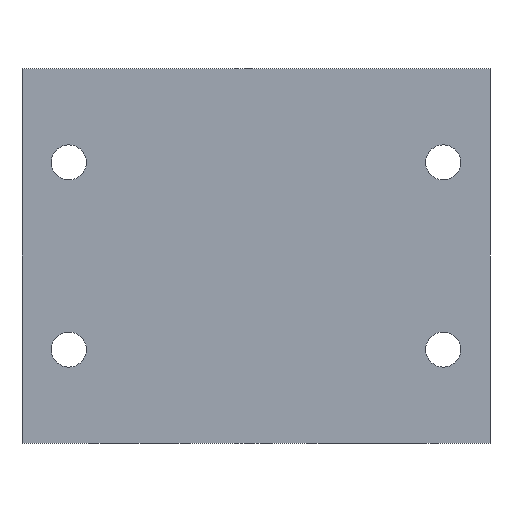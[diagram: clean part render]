
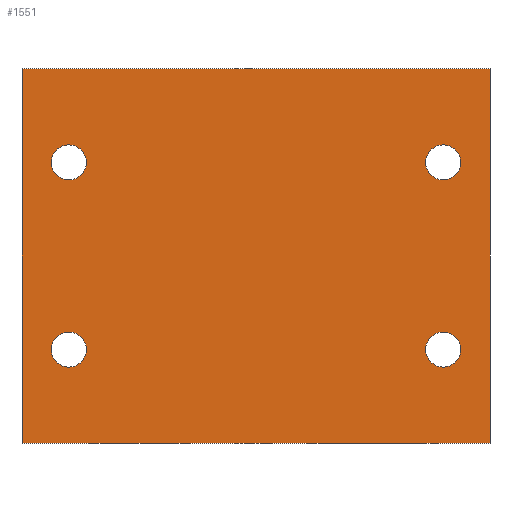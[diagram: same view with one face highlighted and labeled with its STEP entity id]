
A CAD part, front view. The second image highlights one B-rep face of the part: STEP entity #1551.
In plain terms, the highlighted planar face has unit normal (0, -1, 0).
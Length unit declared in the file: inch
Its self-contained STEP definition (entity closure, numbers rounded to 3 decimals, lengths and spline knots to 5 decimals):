
#23 = DIRECTION ( 'NONE',  ( 0., 0., 1. ) ) ;
#60 = CARTESIAN_POINT ( 'NONE',  ( -1.34238, 0., 2.18116 ) ) ;
#90 = CARTESIAN_POINT ( 'NONE',  ( 3.15762, 0., -0.81884 ) ) ;
#136 = CARTESIAN_POINT ( 'NONE',  ( 0., 0., 0. ) ) ;
#147 = CARTESIAN_POINT ( 'NONE',  ( 2.65762, 0., 2.18116 ) ) ;
#158 = FACE_BOUND ( 'NONE', #1676, .T. ) ;
#194 = VERTEX_POINT ( 'NONE', #2340 ) ;
#199 = CARTESIAN_POINT ( 'NONE',  ( -1.34238, 0., 0.36866 ) ) ;
#213 = ORIENTED_EDGE ( 'NONE', *, *, #2386, .T. ) ;
#228 = AXIS2_PLACEMENT_3D ( 'NONE', #2409, #347, #542 ) ;
#233 = ORIENTED_EDGE ( 'NONE', *, *, #717, .T. ) ;
#241 = VERTEX_POINT ( 'NONE', #199 ) ;
#247 = CARTESIAN_POINT ( 'NONE',  ( -1.84238, 0., -0.81884 ) ) ;
#260 = CARTESIAN_POINT ( 'NONE',  ( -1.84238, 0., 3.18116 ) ) ;
#271 = CIRCLE ( 'NONE', #1636, 0.1875 ) ;
#292 = EDGE_LOOP ( 'NONE', ( #1538, #1654, #365, #325 ) ) ;
#299 = DIRECTION ( 'NONE',  ( 0., 0., 1. ) ) ;
#310 = CARTESIAN_POINT ( 'NONE',  ( 2.65762, 0., 0.18116 ) ) ;
#325 = ORIENTED_EDGE ( 'NONE', *, *, #2050, .F. ) ;
#347 = DIRECTION ( 'NONE',  ( 0., 1., 0. ) ) ;
#365 = ORIENTED_EDGE ( 'NONE', *, *, #659, .F. ) ;
#372 = CARTESIAN_POINT ( 'NONE',  ( 3.15762, 0., 3.18116 ) ) ;
#377 = AXIS2_PLACEMENT_3D ( 'NONE', #136, #1051, #682 ) ;
#437 = VERTEX_POINT ( 'NONE', #2324 ) ;
#446 = CARTESIAN_POINT ( 'NONE',  ( -1.84238, 0., 3.18116 ) ) ;
#452 = AXIS2_PLACEMENT_3D ( 'NONE', #60, #1534, #747 ) ;
#470 = CARTESIAN_POINT ( 'NONE',  ( 2.65762, 0., 0.36866 ) ) ;
#474 = DIRECTION ( 'NONE',  ( 0., 1., 0. ) ) ;
#481 = FACE_BOUND ( 'NONE', #744, .T. ) ;
#508 = VECTOR ( 'NONE', #2161, 39.37008 ) ;
#533 = EDGE_CURVE ( 'NONE', #2162, #1849, #885, .T. ) ;
#539 = EDGE_LOOP ( 'NONE', ( #942, #233 ) ) ;
#542 = DIRECTION ( 'NONE',  ( 0., 0., 1. ) ) ;
#546 = DIRECTION ( 'NONE',  ( 0., 1., 0. ) ) ;
#578 = DIRECTION ( 'NONE',  ( 0., 1., 0. ) ) ;
#595 = CARTESIAN_POINT ( 'NONE',  ( -1.34238, 0., 2.36866 ) ) ;
#653 = VERTEX_POINT ( 'NONE', #595 ) ;
#659 = EDGE_CURVE ( 'NONE', #986, #2162, #1196, .T. ) ;
#682 = DIRECTION ( 'NONE',  ( 0., 0., 1. ) ) ;
#683 = CARTESIAN_POINT ( 'NONE',  ( 3.15762, 0., -0.81884 ) ) ;
#691 = CIRCLE ( 'NONE', #1712, 0.1875 ) ;
#693 = FACE_BOUND ( 'NONE', #2145, .T. ) ;
#697 = VERTEX_POINT ( 'NONE', #830 ) ;
#717 = EDGE_CURVE ( 'NONE', #2165, #241, #1373, .T. ) ;
#737 = AXIS2_PLACEMENT_3D ( 'NONE', #147, #546, #2034 ) ;
#744 = EDGE_LOOP ( 'NONE', ( #1381, #1444 ) ) ;
#747 = DIRECTION ( 'NONE',  ( 0., 0., 1. ) ) ;
#780 = AXIS2_PLACEMENT_3D ( 'NONE', #1005, #1754, #1945 ) ;
#783 = DIRECTION ( 'NONE',  ( 0., 0., 1. ) ) ;
#830 = CARTESIAN_POINT ( 'NONE',  ( 2.65762, 0., -0.00634 ) ) ;
#879 = CIRCLE ( 'NONE', #452, 0.1875 ) ;
#885 = LINE ( 'NONE', #1056, #508 ) ;
#904 = FACE_OUTER_BOUND ( 'NONE', #292, .T. ) ;
#905 = CARTESIAN_POINT ( 'NONE',  ( -1.34238, 0., -0.00634 ) ) ;
#939 = EDGE_CURVE ( 'NONE', #697, #2014, #1401, .T. ) ;
#942 = ORIENTED_EDGE ( 'NONE', *, *, #2333, .T. ) ;
#968 = DIRECTION ( 'NONE',  ( 0., 0., 1. ) ) ;
#986 = VERTEX_POINT ( 'NONE', #372 ) ;
#1005 = CARTESIAN_POINT ( 'NONE',  ( -1.34238, 0., 2.18116 ) ) ;
#1010 = DIRECTION ( 'NONE',  ( 0., 0., -1. ) ) ;
#1051 = DIRECTION ( 'NONE',  ( 0., 1., 0. ) ) ;
#1056 = CARTESIAN_POINT ( 'NONE',  ( -1.84238, 0., -0.81884 ) ) ;
#1092 = VECTOR ( 'NONE', #2402, 39.37008 ) ;
#1131 = VECTOR ( 'NONE', #1010, 39.37008 ) ;
#1162 = CARTESIAN_POINT ( 'NONE',  ( 2.65762, 0., 2.18116 ) ) ;
#1191 = DIRECTION ( 'NONE',  ( 1., 0., 0. ) ) ;
#1196 = LINE ( 'NONE', #90, #1131 ) ;
#1291 = LINE ( 'NONE', #2002, #1092 ) ;
#1302 = CARTESIAN_POINT ( 'NONE',  ( -1.34238, 0., 0.18116 ) ) ;
#1346 = ORIENTED_EDGE ( 'NONE', *, *, #2223, .T. ) ;
#1373 = CIRCLE ( 'NONE', #2073, 0.1875 ) ;
#1381 = ORIENTED_EDGE ( 'NONE', *, *, #1640, .T. ) ;
#1401 = CIRCLE ( 'NONE', #228, 0.1875 ) ;
#1406 = VECTOR ( 'NONE', #1191, 39.37008 ) ;
#1444 = ORIENTED_EDGE ( 'NONE', *, *, #939, .T. ) ;
#1534 = DIRECTION ( 'NONE',  ( 0., 1., 0. ) ) ;
#1538 = ORIENTED_EDGE ( 'NONE', *, *, #2107, .F. ) ;
#1551 = ADVANCED_FACE ( 'NONE', ( #2168, #481, #158, #693, #904 ), #2156, .F. ) ;
#1592 = AXIS2_PLACEMENT_3D ( 'NONE', #1162, #1673, #23 ) ;
#1636 = AXIS2_PLACEMENT_3D ( 'NONE', #1302, #2045, #783 ) ;
#1640 = EDGE_CURVE ( 'NONE', #2014, #697, #691, .T. ) ;
#1654 = ORIENTED_EDGE ( 'NONE', *, *, #533, .F. ) ;
#1673 = DIRECTION ( 'NONE',  ( 0., 1., 0. ) ) ;
#1676 = EDGE_LOOP ( 'NONE', ( #1870, #1964 ) ) ;
#1712 = AXIS2_PLACEMENT_3D ( 'NONE', #310, #474, #299 ) ;
#1735 = CARTESIAN_POINT ( 'NONE',  ( -1.34238, 0., 0.18116 ) ) ;
#1754 = DIRECTION ( 'NONE',  ( 0., 1., 0. ) ) ;
#1836 = EDGE_CURVE ( 'NONE', #653, #1884, #879, .T. ) ;
#1849 = VERTEX_POINT ( 'NONE', #247 ) ;
#1870 = ORIENTED_EDGE ( 'NONE', *, *, #1836, .T. ) ;
#1873 = CARTESIAN_POINT ( 'NONE',  ( -1.34238, 0., 1.99366 ) ) ;
#1884 = VERTEX_POINT ( 'NONE', #1873 ) ;
#1945 = DIRECTION ( 'NONE',  ( 0., 0., 1. ) ) ;
#1964 = ORIENTED_EDGE ( 'NONE', *, *, #2057, .T. ) ;
#2002 = CARTESIAN_POINT ( 'NONE',  ( -1.84238, 0., -0.81884 ) ) ;
#2014 = VERTEX_POINT ( 'NONE', #470 ) ;
#2034 = DIRECTION ( 'NONE',  ( 0., 0., 1. ) ) ;
#2045 = DIRECTION ( 'NONE',  ( 0., 1., 0. ) ) ;
#2050 = EDGE_CURVE ( 'NONE', #2055, #986, #2119, .T. ) ;
#2055 = VERTEX_POINT ( 'NONE', #260 ) ;
#2057 = EDGE_CURVE ( 'NONE', #1884, #653, #2422, .T. ) ;
#2073 = AXIS2_PLACEMENT_3D ( 'NONE', #1735, #578, #968 ) ;
#2107 = EDGE_CURVE ( 'NONE', #1849, #2055, #1291, .T. ) ;
#2119 = LINE ( 'NONE', #446, #1406 ) ;
#2145 = EDGE_LOOP ( 'NONE', ( #213, #1346 ) ) ;
#2149 = CIRCLE ( 'NONE', #737, 0.1875 ) ;
#2156 = PLANE ( 'NONE',  #377 ) ;
#2161 = DIRECTION ( 'NONE',  ( -1., 0., 0. ) ) ;
#2162 = VERTEX_POINT ( 'NONE', #683 ) ;
#2165 = VERTEX_POINT ( 'NONE', #905 ) ;
#2168 = FACE_BOUND ( 'NONE', #539, .T. ) ;
#2182 = CIRCLE ( 'NONE', #1592, 0.1875 ) ;
#2223 = EDGE_CURVE ( 'NONE', #194, #437, #2149, .T. ) ;
#2324 = CARTESIAN_POINT ( 'NONE',  ( 2.65762, 0., 2.36866 ) ) ;
#2333 = EDGE_CURVE ( 'NONE', #241, #2165, #271, .T. ) ;
#2340 = CARTESIAN_POINT ( 'NONE',  ( 2.65762, 0., 1.99366 ) ) ;
#2386 = EDGE_CURVE ( 'NONE', #437, #194, #2182, .T. ) ;
#2402 = DIRECTION ( 'NONE',  ( 0., 0., 1. ) ) ;
#2409 = CARTESIAN_POINT ( 'NONE',  ( 2.65762, 0., 0.18116 ) ) ;
#2422 = CIRCLE ( 'NONE', #780, 0.1875 ) ;
